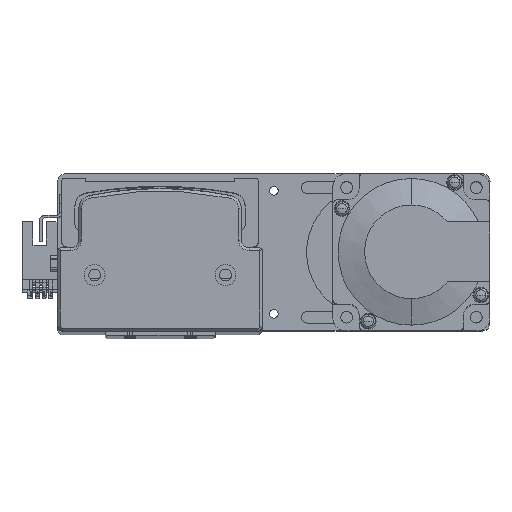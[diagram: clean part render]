
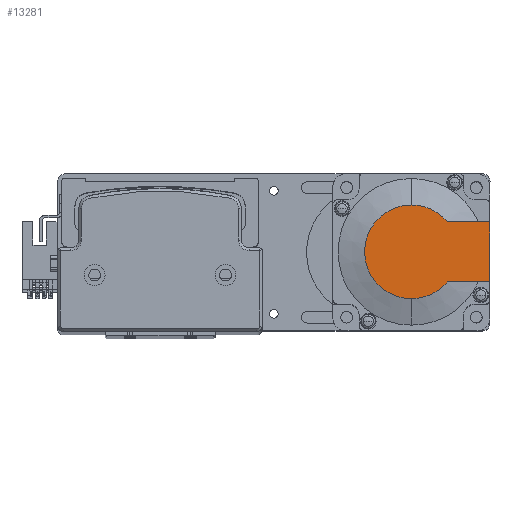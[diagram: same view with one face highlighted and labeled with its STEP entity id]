
A CAD part, top view. The second image highlights one B-rep face of the part: STEP entity #13281.
In plain terms, the highlighted planar face has unit normal (0, 0, 1) as drawn and (-1, 0, 0) by its records, which use the part's own axes.
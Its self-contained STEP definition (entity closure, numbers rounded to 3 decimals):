
#118 = AXIS2_PLACEMENT_3D ( 'NONE', #27228, #3948, #31064 ) ;
#3919 = CARTESIAN_POINT ( 'NONE',  ( -118.5, 13.735, 11.45 ) ) ;
#3948 = DIRECTION ( 'NONE',  ( -1., 0., 0. ) ) ;
#6047 = EDGE_CURVE ( 'NONE', #49060, #21089, #20727, .T. ) ;
#6122 = EDGE_CURVE ( 'NONE', #21089, #34899, #27447, .T. ) ;
#6192 = EDGE_CURVE ( 'NONE', #23835, #45459, #21340, .T. ) ;
#6247 = PLANE ( 'NONE',  #12988 ) ;
#7837 = CARTESIAN_POINT ( 'NONE',  ( -118.5, 0., 11.45 ) ) ;
#8219 = CARTESIAN_POINT ( 'NONE',  ( -118.5, 30., -11.45 ) ) ;
#8349 = CARTESIAN_POINT ( 'NONE',  ( -118.5, 30., 25. ) ) ;
#11556 = CARTESIAN_POINT ( 'NONE',  ( -118.5, 13.735, -11.45 ) ) ;
#12251 = DIRECTION ( 'NONE',  ( 0., 0., 1. ) ) ;
#12988 = AXIS2_PLACEMENT_3D ( 'NONE', #21868, #49090, #25778 ) ;
#13281 = ADVANCED_FACE ( 'NONE', ( #41453 ), #6247, .T. ) ;
#14476 = EDGE_CURVE ( 'NONE', #23835, #49060, #46219, .T. ) ;
#14729 = CIRCLE ( 'NONE', #15276, 17.881 ) ;
#15276 = AXIS2_PLACEMENT_3D ( 'NONE', #41911, #18693, #45937 ) ;
#15648 = LINE ( 'NONE', #7837, #46695 ) ;
#16364 = ORIENTED_EDGE ( 'NONE', *, *, #24364, .F. ) ;
#17473 = VERTEX_POINT ( 'NONE', #3919 ) ;
#18693 = DIRECTION ( 'NONE',  ( -1., 0., 0. ) ) ;
#19064 = CARTESIAN_POINT ( 'NONE',  ( -118.5, 0., 0. ) ) ;
#19227 = CARTESIAN_POINT ( 'NONE',  ( -118.5, 30., 11.45 ) ) ;
#19518 = ORIENTED_EDGE ( 'NONE', *, *, #36344, .T. ) ;
#20090 = VECTOR ( 'NONE', #12251, 1000. ) ;
#20727 = CIRCLE ( 'NONE', #34933, 17.881 ) ;
#21089 = VERTEX_POINT ( 'NONE', #49430 ) ;
#21340 = LINE ( 'NONE', #8349, #20090 ) ;
#21868 = CARTESIAN_POINT ( 'NONE',  ( -118.5, -8.941, 0. ) ) ;
#22610 = CARTESIAN_POINT ( 'NONE',  ( -118.5, -8.941, -11.45 ) ) ;
#23004 = DIRECTION ( 'NONE',  ( 0., 0., -1. ) ) ;
#23835 = VERTEX_POINT ( 'NONE', #8219 ) ;
#24364 = EDGE_CURVE ( 'NONE', #45459, #17473, #15648, .T. ) ;
#25778 = DIRECTION ( 'NONE',  ( 0., 0., 1. ) ) ;
#26513 = DIRECTION ( 'NONE',  ( 0., -1., 0. ) ) ;
#26636 = ORIENTED_EDGE ( 'NONE', *, *, #6122, .T. ) ;
#27228 = CARTESIAN_POINT ( 'NONE',  ( -118.5, 0., 0. ) ) ;
#27447 = CIRCLE ( 'NONE', #118, 17.881 ) ;
#27807 = EDGE_LOOP ( 'NONE', ( #44177, #44237, #26636, #19518, #16364, #35299 ) ) ;
#31047 = DIRECTION ( 'NONE',  ( 0., -1., 0. ) ) ;
#31064 = DIRECTION ( 'NONE',  ( 0., 0., -1. ) ) ;
#34899 = VERTEX_POINT ( 'NONE', #47733 ) ;
#34933 = AXIS2_PLACEMENT_3D ( 'NONE', #19064, #46317, #23004 ) ;
#35299 = ORIENTED_EDGE ( 'NONE', *, *, #6192, .F. ) ;
#35760 = VECTOR ( 'NONE', #26513, 1000. ) ;
#36344 = EDGE_CURVE ( 'NONE', #34899, #17473, #14729, .T. ) ;
#41453 = FACE_OUTER_BOUND ( 'NONE', #27807, .T. ) ;
#41911 = CARTESIAN_POINT ( 'NONE',  ( -118.5, 0., 0. ) ) ;
#44177 = ORIENTED_EDGE ( 'NONE', *, *, #14476, .T. ) ;
#44237 = ORIENTED_EDGE ( 'NONE', *, *, #6047, .T. ) ;
#45459 = VERTEX_POINT ( 'NONE', #19227 ) ;
#45937 = DIRECTION ( 'NONE',  ( 0., 0., -1. ) ) ;
#46219 = LINE ( 'NONE', #22610, #35760 ) ;
#46317 = DIRECTION ( 'NONE',  ( -1., 0., 0. ) ) ;
#46695 = VECTOR ( 'NONE', #31047, 1000. ) ;
#47733 = CARTESIAN_POINT ( 'NONE',  ( -118.5, 0., 17.881 ) ) ;
#49060 = VERTEX_POINT ( 'NONE', #11556 ) ;
#49090 = DIRECTION ( 'NONE',  ( -1., 0., 0. ) ) ;
#49430 = CARTESIAN_POINT ( 'NONE',  ( -118.5, 0., -17.881 ) ) ;
